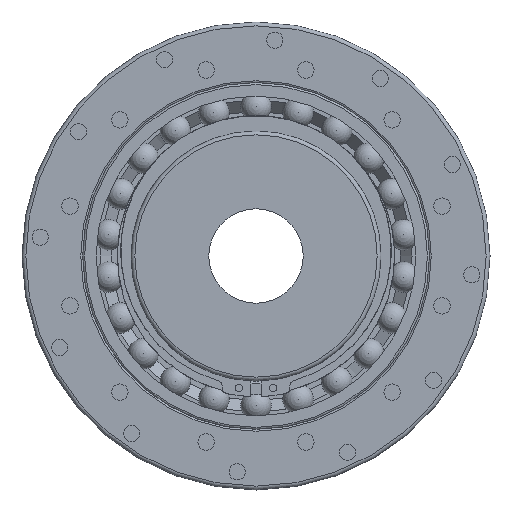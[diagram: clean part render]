
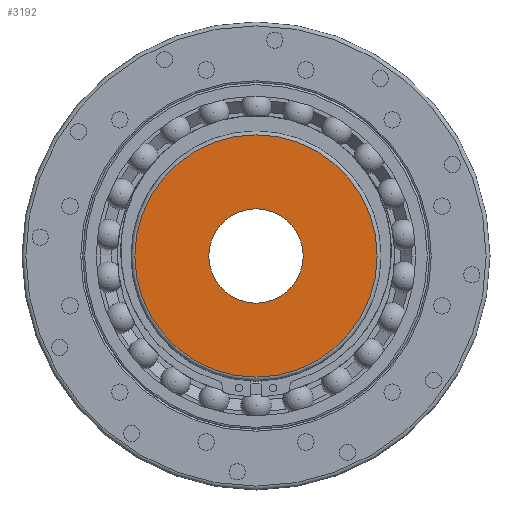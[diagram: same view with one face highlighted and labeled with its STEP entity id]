
A CAD part, left-side view. The second image highlights one B-rep face of the part: STEP entity #3192.
In plain terms, the highlighted planar face has unit normal (-1, 0, 0).
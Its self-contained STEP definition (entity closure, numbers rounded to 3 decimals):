
#476=PLANE('',#3860);
#1128=ORIENTED_EDGE('',*,*,#1531,.F.);
#1129=ORIENTED_EDGE('',*,*,#1538,.T.);
#1531=EDGE_CURVE('',#1845,#1845,#2070,.T.);
#1538=EDGE_CURVE('',#1849,#1849,#2071,.T.);
#1845=VERTEX_POINT('',#5922);
#1849=VERTEX_POINT('',#5951);
#2070=CIRCLE('',#3850,24.5);
#2071=CIRCLE('',#3859,62.9);
#2465=EDGE_LOOP('',(#1128));
#2466=EDGE_LOOP('',(#1129));
#2893=FACE_BOUND('',#2465,.T.);
#2894=FACE_BOUND('',#2466,.T.);
#3192=ADVANCED_FACE('',(#2893,#2894),#476,.F.);
#3850=AXIS2_PLACEMENT_3D('',#5921,#4821,#4822);
#3859=AXIS2_PLACEMENT_3D('',#5950,#4844,#4845);
#3860=AXIS2_PLACEMENT_3D('',#5952,#4846,#4847);
#4821=DIRECTION('',(-1.,0.,0.));
#4822=DIRECTION('',(0.,0.,1.));
#4844=DIRECTION('',(-1.,0.,0.));
#4845=DIRECTION('',(0.,0.,1.));
#4846=DIRECTION('',(1.,0.,0.));
#4847=DIRECTION('',(0.,0.,-1.));
#5921=CARTESIAN_POINT('',(-13.35,0.,0.));
#5922=CARTESIAN_POINT('',(-13.35,0.,24.5));
#5950=CARTESIAN_POINT('',(-13.35,0.,0.));
#5951=CARTESIAN_POINT('',(-13.35,0.,62.9));
#5952=CARTESIAN_POINT('',(-13.35,0.,64.9));
